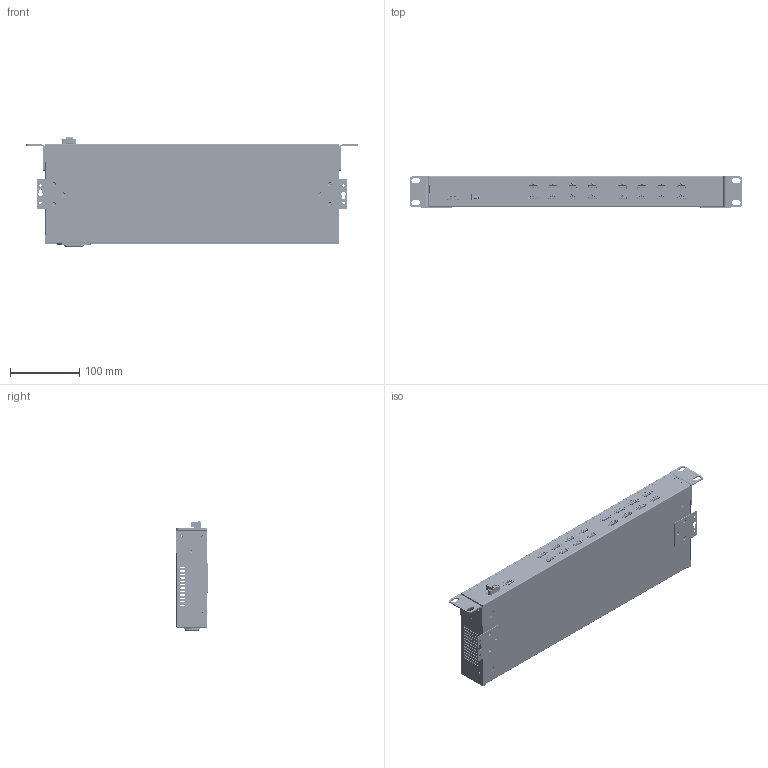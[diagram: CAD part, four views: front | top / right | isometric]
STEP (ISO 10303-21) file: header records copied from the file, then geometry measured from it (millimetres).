
FILE_DESCRIPTION(/* description */ (''),/* implementation_level */ '2;1');
FILE_NAME(/* name */ 'C:/Users/Leo/Desktop/AA CoolGear CADs/HUB-1600i-RM/HUB-1600i-RM Model3D LPV1.step',/* time_stamp */ '2021-05-17T16:18:20-04:00',/* author */ (''),/* organization */ (''),/* preprocessor_version */ 'ST-DEVELOPER v18.1',/* originating_system */ 'Autodesk Translation Framework v10.6.0.1341',/* authorisation */ '');
FILE_SCHEMA (('AUTOMOTIVE_DESIGN { 1 0 10303 214 3 1 1 }'));
Products named in the file (140): HUB-1600i-RM; Component2; 1333N52_IEC Connector; Component6; Component7; Connector green Phoenix female screw nut 5.08 v3; USB type B first Gen White v3; Housing1; pin1; shielding; pin2; shielding_2; Housing3; USB Type A Single Blue v1; Download_STP_692121030100_(rev1); LED 3mm v4; 3mm_LED; led_energy (1); led_pin.1.1.1 (1); led_pin.2.1 (1); USB Type A Single Blue v1_1; Download_STP_692121030100_(rev1)_1; LED 3mm v4_1; 3mm_LED_1; led_energy (1)_1; led_pin.1.1.1 (1)_1; led_pin.2.1 (1)_1; USB Type A Single Blue v1_2; Download_STP_692121030100_(rev1)_2; LED 3mm v4_2; 3mm_LED_2; led_energy (1)_2; led_pin.1.1.1 (1)_2; led_pin.2.1 (1)_2; USB Type A Single Blue v1_3; Download_STP_692121030100_(rev1)_3; LED 3mm v4_3; 3mm_LED_3; led_energy (1)_3; led_pin.1.1.1 (1)_3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
Assembly tree (396 placements, depth 5):
  HUB-1600i-RM
    Component2
    1333N52_IEC Connector
    Component6  x2
    Component7  x2
    Connector green Phoenix female screw nut 5.08 v3
    USB type B first Gen White v3
      Housing1
      pin1  x2
      shielding
      pin2  x2
      shielding_2
      Housing3
    USB Type A Single Blue v1
      Download_STP_692121030100_(rev1)
        housing1_1
        pin1 (1)  x5
        housing2
        pin2 (1)  x2
        pin  x2
        shielding (1)
    LED 3mm v4
      3mm_LED
        led_energy (1)
          led_energy
        led_pin.1.1.1 (1)
          led_pin.1.1.1
        led_pin.2.1 (1)
          led_pin.2.1
    USB Type A Single Blue v1_1
      Download_STP_692121030100_(rev1)_1
        housing1_1
        pin1 (1)  x5
        housing2
        pin2 (1)  x2
        pin  x2
        shielding (1)
    LED 3mm v4_1
      3mm_LED_1
        led_energy (1)_1
          led_energy
        led_pin.1.1.1 (1)_1
          led_pin.1.1.1
        led_pin.2.1 (1)_1
          led_pin.2.1
    USB Type A Single Blue v1_2
      Download_STP_692121030100_(rev1)_2
        housing1_1
        pin1 (1)  x5
        housing2
        pin2 (1)  x2
        pin  x2
        shielding (1)
    LED 3mm v4_2
      3mm_LED_2
        led_energy (1)_2
          led_energy
        led_pin.1.1.1 (1)_2
          led_pin.1.1.1
        led_pin.2.1 (1)_2
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Bounding box: 481 x 45.2 x 158.22 mm (x, y, z)
Volume: 1473862.7 mm3; surface area: 536239.6 mm2
Topology: 9 solids, 169 shells, 18119 faces, 53165 edges, 34305 vertices
Faces by surface type: plane 13660, cylinder 4064, cone 208, bspline 133, torus 30, sphere 24
Full cylindrical faces by diameter (mm): 1.399 x44, 1.6 x2, 1.7 x4, 1.854 x42, 1.986 x8, 2 x2, 2.271 x34, 2.529 x8, 2.7 x2, 2.845 x2, 2.998 x16, 3 x9, 3.2 x1, 3.5 x8, 3.643 x16, 3.86 x2, 4 x2, 6.3 x2, 15 x4
Entity records: 620023 total; most frequent: CARTESIAN_POINT 129401, ORIENTED_EDGE 105678, DIRECTION 97315, EDGE_CURVE 52839, LINE 43445, VECTOR 43445, VERTEX_POINT 34114, AXIS2_PLACEMENT_3D 26935
